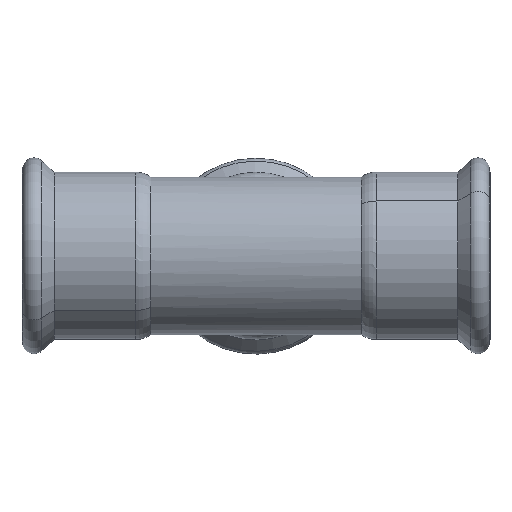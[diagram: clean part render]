
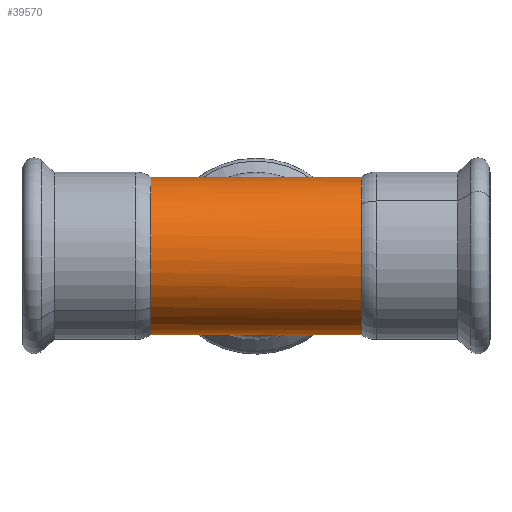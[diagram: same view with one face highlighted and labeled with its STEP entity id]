
A CAD part, top view. The second image highlights one B-rep face of the part: STEP entity #39570.
In plain terms, the highlighted cylindrical face has radius 33.35 mm (diameter 66.7 mm), a partial arc.
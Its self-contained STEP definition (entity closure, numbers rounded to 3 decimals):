
#170=CARTESIAN_POINT('',(3.4,0.,0.));
#180=DIRECTION('',(1.,0.,0.));
#190=DIRECTION('',(0.,-0.654,
-0.757));
#200=AXIS2_PLACEMENT_3D('',#170,#180,#190);
#210=CIRCLE('',#200,33.35);
#220=CARTESIAN_POINT('',(3.4,-33.35,0.));
#230=VERTEX_POINT('',#220);
#260=CARTESIAN_POINT('',(3.4,21.804,
25.235));
#270=VERTEX_POINT('',#260);
#280=EDGE_CURVE('',#270,#230,#210,.T.);
#39120=CARTESIAN_POINT('',(3.4,33.35,0.));
#39130=VERTEX_POINT('',#39120);
#39140=EDGE_CURVE('',#39130,#270,#210,.T.);
#39210=CARTESIAN_POINT('',(5.,0.,0.));
#39220=DIRECTION('',(1.,0.,0.));
#39230=DIRECTION('',(0.,1.,0.));
#39240=AXIS2_PLACEMENT_3D('',#39210,#39220,#39230);
#39250=CYLINDRICAL_SURFACE('',#39240,33.35);
#39260=CARTESIAN_POINT('',(5.,33.35,0.));
#39270=DIRECTION('',(1.,0.,0.));
#39280=VECTOR('',#39270,1.);
#39290=LINE('',#39260,#39280);
#39300=CARTESIAN_POINT('',(-85.6,33.35,0.));
#39310=VERTEX_POINT('',#39300);
#39320=EDGE_CURVE('',#39310,#39130,#39290,.T.);
#39330=ORIENTED_EDGE('',*,*,#39320,.F.);
#39340=ORIENTED_EDGE('',*,*,#39140,.F.);
#39350=ORIENTED_EDGE('',*,*,#280,.F.);
#39360=CARTESIAN_POINT('',(5.,-33.35,0.));
#39370=DIRECTION('',(1.,0.,0.));
#39380=VECTOR('',#39370,1.);
#39390=LINE('',#39360,#39380);
#39400=CARTESIAN_POINT('',(-85.6,-33.35,0.));
#39410=VERTEX_POINT('',#39400);
#39420=EDGE_CURVE('',#39410,#230,#39390,.T.);
#39430=ORIENTED_EDGE('',*,*,#39420,.T.);
#39440=CARTESIAN_POINT('',(-85.6,0.,0.));
#39450=DIRECTION('',(-1.,0.,0.));
#39460=DIRECTION('',(0.,0.654,
-0.757));
#39470=AXIS2_PLACEMENT_3D('',#39440,#39450,#39460);
#39480=CIRCLE('',#39470,33.35);
#39490=CARTESIAN_POINT('',(-85.6,-21.804,25.235));
#39500=VERTEX_POINT('',#39490);
#39510=EDGE_CURVE('',#39410,#39500,#39480,.T.);
#39520=ORIENTED_EDGE('',*,*,#39510,.F.);
#39530=EDGE_CURVE('',#39500,#39310,#39480,.T.);
#39540=ORIENTED_EDGE('',*,*,#39530,.F.);
#39550=EDGE_LOOP('',(#39540,#39520,#39430,#39350,#39340,#39330));
#39560=FACE_OUTER_BOUND('',#39550,.T.);
#39570=ADVANCED_FACE('',(#39560),#39250,.T.);
